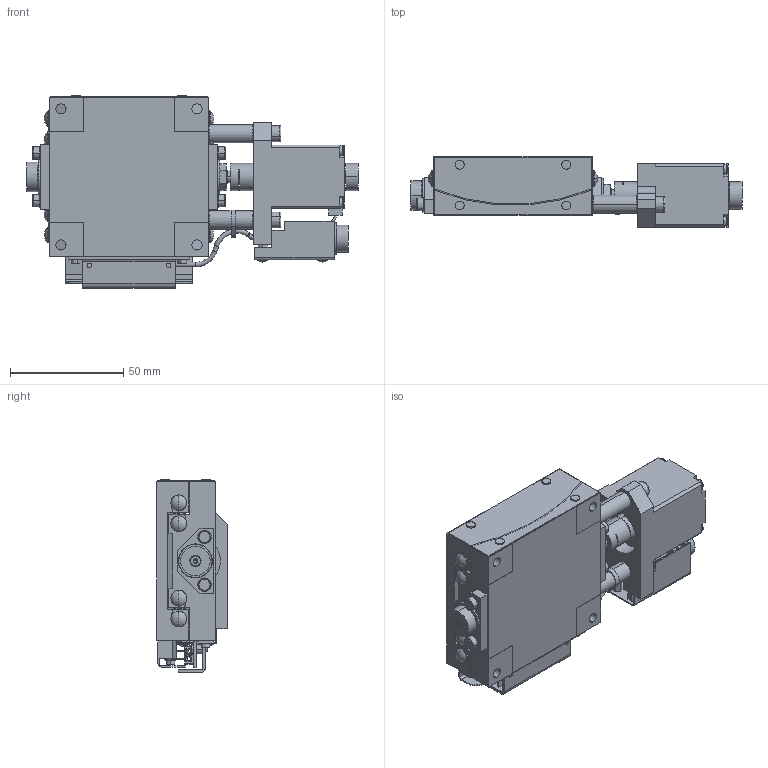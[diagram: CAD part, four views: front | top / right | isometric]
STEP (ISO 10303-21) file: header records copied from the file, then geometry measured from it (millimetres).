
FILE_DESCRIPTION (( 'STEP AP214' ), '1' );
FILE_NAME ('KGB07070AM-LT.STEP', '2024-04-17T00:54:00', ( '' ), ( '' ), 'SwSTEP 2.0', 'SolidWorks 2017', '' );
FILE_SCHEMA (( 'AUTOMOTIVE_DESIGN' ));
Length unit declared in the file: millimetre
Products named in the file (5): KGB-70-M-12-L; KGB-70-T-L; KGB-TOP-07070-L; KGB-BASE-07070-L; KGB07070AM-LT
Assembly tree (4 placements, depth 2):
  KGB07070AM-LT
    KGB-BASE-07070-L
    KGB-TOP-07070-L
    KGB-70-T-L
    KGB-70-M-12-L
Bounding box: 146.4 x 31 x 85.1 mm (x, y, z)
Volume: 170930.8 mm3; surface area: 60596 mm2
Topology: 7 solids, 48 shells, 1420 faces, 3480 edges, 2237 vertices
Faces by surface type: plane 729, cylinder 474, cone 125, torus 48, bspline 24, sphere 20
Entity records: 43064 total; most frequent: CARTESIAN_POINT 8173, DIRECTION 7421, ORIENTED_EDGE 6860, EDGE_CURVE 3430, AXIS2_PLACEMENT_3D 2655, VERTEX_POINT 2237, LINE 2111, VECTOR 2111
